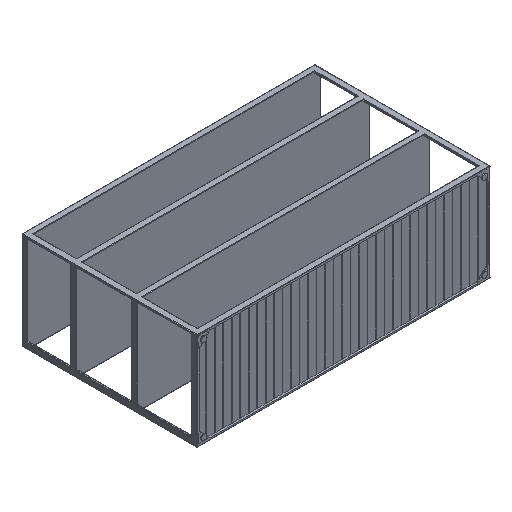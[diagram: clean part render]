
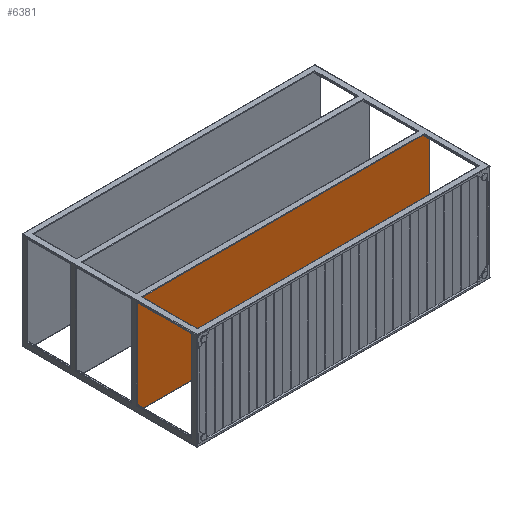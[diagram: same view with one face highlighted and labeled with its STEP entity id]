
A CAD part, isometric view. The second image highlights one B-rep face of the part: STEP entity #6381.
In plain terms, the highlighted planar face has unit normal (0, -1, 0).
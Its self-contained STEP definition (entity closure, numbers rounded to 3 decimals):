
#283=PLANE('',#7004);
#682=FACE_OUTER_BOUND('',#1098,.T.);
#1098=EDGE_LOOP('',(#5219,#5220,#5221,#5222,#5223,#5224,#5225,#5226,#5227,
#5228,#5229,#5230,#5231,#5232,#5233,#5234));
#1325=LINE('',#9107,#2073);
#1328=LINE('',#9114,#2076);
#1337=LINE('',#9139,#2085);
#1343=LINE('',#9158,#2091);
#1563=LINE('',#9760,#2311);
#1565=LINE('',#9765,#2313);
#1573=LINE('',#9777,#2321);
#1577=LINE('',#9790,#2325);
#1601=LINE('',#9871,#2349);
#1610=LINE('',#9910,#2358);
#1635=LINE('',#9975,#2383);
#1644=LINE('',#10008,#2392);
#2073=VECTOR('',#7263,10.);
#2076=VECTOR('',#7270,10.);
#2085=VECTOR('',#7293,10.);
#2091=VECTOR('',#7311,10.);
#2311=VECTOR('',#7873,10.);
#2313=VECTOR('',#7881,10.);
#2321=VECTOR('',#7889,10.);
#2325=VECTOR('',#7907,10.);
#2349=VECTOR('',#8023,10.);
#2358=VECTOR('',#8084,10.);
#2383=VECTOR('',#8169,10.);
#2392=VECTOR('',#8218,10.);
#2806=CIRCLE('',#6683,2.);
#2807=CIRCLE('',#6685,2.);
#2809=CIRCLE('',#6693,2.);
#2811=CIRCLE('',#6700,2.);
#2882=VERTEX_POINT('',#9091);
#2883=VERTEX_POINT('',#9093);
#2884=VERTEX_POINT('',#9097);
#2885=VERTEX_POINT('',#9099);
#2887=VERTEX_POINT('',#9105);
#2889=VERTEX_POINT('',#9113);
#2894=VERTEX_POINT('',#9126);
#2895=VERTEX_POINT('',#9128);
#2898=VERTEX_POINT('',#9138);
#2903=VERTEX_POINT('',#9151);
#2904=VERTEX_POINT('',#9153);
#2905=VERTEX_POINT('',#9157);
#3115=VERTEX_POINT('',#9755);
#3116=VERTEX_POINT('',#9759);
#3120=VERTEX_POINT('',#9775);
#3122=VERTEX_POINT('',#9786);
#3440=EDGE_CURVE('',#2882,#2883,#2806,.F.);
#3443=EDGE_CURVE('',#2884,#2885,#2807,.F.);
#3447=EDGE_CURVE('',#2887,#2882,#1325,.T.);
#3450=EDGE_CURVE('',#2885,#2889,#1328,.T.);
#3457=EDGE_CURVE('',#2894,#2895,#2809,.F.);
#3462=EDGE_CURVE('',#2895,#2898,#1337,.T.);
#3469=EDGE_CURVE('',#2903,#2904,#2811,.F.);
#3471=EDGE_CURVE('',#2904,#2905,#1343,.T.);
#3770=EDGE_CURVE('',#3116,#3115,#1563,.T.);
#3773=EDGE_CURVE('',#2883,#3116,#1565,.T.);
#3781=EDGE_CURVE('',#3120,#2884,#1573,.T.);
#3788=EDGE_CURVE('',#2905,#3122,#1577,.T.);
#3832=EDGE_CURVE('',#2898,#3120,#1601,.T.);
#3853=EDGE_CURVE('',#2889,#2887,#1610,.T.);
#3885=EDGE_CURVE('',#3122,#2894,#1635,.T.);
#3900=EDGE_CURVE('',#3115,#2903,#1644,.T.);
#5219=ORIENTED_EDGE('',*,*,#3770,.F.);
#5220=ORIENTED_EDGE('',*,*,#3773,.F.);
#5221=ORIENTED_EDGE('',*,*,#3440,.F.);
#5222=ORIENTED_EDGE('',*,*,#3447,.F.);
#5223=ORIENTED_EDGE('',*,*,#3853,.F.);
#5224=ORIENTED_EDGE('',*,*,#3450,.F.);
#5225=ORIENTED_EDGE('',*,*,#3443,.F.);
#5226=ORIENTED_EDGE('',*,*,#3781,.F.);
#5227=ORIENTED_EDGE('',*,*,#3832,.F.);
#5228=ORIENTED_EDGE('',*,*,#3462,.F.);
#5229=ORIENTED_EDGE('',*,*,#3457,.F.);
#5230=ORIENTED_EDGE('',*,*,#3885,.F.);
#5231=ORIENTED_EDGE('',*,*,#3788,.F.);
#5232=ORIENTED_EDGE('',*,*,#3471,.F.);
#5233=ORIENTED_EDGE('',*,*,#3469,.F.);
#5234=ORIENTED_EDGE('',*,*,#3900,.F.);
#6381=ADVANCED_FACE('',(#682),#283,.T.);
#6683=AXIS2_PLACEMENT_3D('',#9094,#7250,#7251);
#6685=AXIS2_PLACEMENT_3D('',#9100,#7256,#7257);
#6693=AXIS2_PLACEMENT_3D('',#9129,#7283,#7284);
#6700=AXIS2_PLACEMENT_3D('',#9154,#7306,#7307);
#7004=AXIS2_PLACEMENT_3D('',#10007,#8216,#8217);
#7250=DIRECTION('center_axis',(0.,1.,0.));
#7251=DIRECTION('ref_axis',(-0.707,0.,-0.707));
#7256=DIRECTION('center_axis',(0.,1.,0.));
#7257=DIRECTION('ref_axis',(0.707,0.,-0.707));
#7263=DIRECTION('',(0.,0.,-1.));
#7270=DIRECTION('',(0.,0.,1.));
#7283=DIRECTION('center_axis',(0.,1.,0.));
#7284=DIRECTION('ref_axis',(0.707,0.,0.707));
#7293=DIRECTION('',(-1.,0.,0.));
#7306=DIRECTION('center_axis',(0.,1.,0.));
#7307=DIRECTION('ref_axis',(-0.707,0.,0.707));
#7311=DIRECTION('',(0.,0.,-1.));
#7873=DIRECTION('',(0.,0.,-1.));
#7881=DIRECTION('',(1.,0.,0.));
#7889=DIRECTION('',(1.,0.,0.));
#7907=DIRECTION('',(-1.,0.,0.));
#8023=DIRECTION('',(0.,0.,1.));
#8084=DIRECTION('',(1.,0.,0.));
#8169=DIRECTION('',(0.,0.,1.));
#8216=DIRECTION('center_axis',(0.,-1.,0.));
#8217=DIRECTION('ref_axis',(0.,0.,-1.));
#8218=DIRECTION('',(-1.,0.,0.));
#9091=CARTESIAN_POINT('',(722.5,310.,242.));
#9093=CARTESIAN_POINT('',(724.5,310.,240.));
#9094=CARTESIAN_POINT('Origin',(724.5,310.,242.));
#9097=CARTESIAN_POINT('',(-724.5,310.,240.));
#9099=CARTESIAN_POINT('',(-722.5,310.,242.));
#9100=CARTESIAN_POINT('Origin',(-724.5,310.,242.));
#9105=CARTESIAN_POINT('',(722.5,310.,248.));
#9107=CARTESIAN_POINT('',(722.5,310.,120.));
#9113=CARTESIAN_POINT('',(-722.5,310.,248.));
#9114=CARTESIAN_POINT('',(-722.5,310.,125.));
#9126=CARTESIAN_POINT('',(-742.5,310.,-222.));
#9128=CARTESIAN_POINT('',(-744.5,310.,-220.));
#9129=CARTESIAN_POINT('Origin',(-744.5,310.,-222.));
#9138=CARTESIAN_POINT('',(-750.5,310.,-220.));
#9139=CARTESIAN_POINT('',(-376.25,310.,-220.));
#9151=CARTESIAN_POINT('',(744.5,310.,-220.));
#9153=CARTESIAN_POINT('',(742.5,310.,-222.));
#9154=CARTESIAN_POINT('Origin',(744.5,310.,-222.));
#9157=CARTESIAN_POINT('',(742.5,310.,-248.));
#9158=CARTESIAN_POINT('',(742.5,310.,120.));
#9755=CARTESIAN_POINT('',(750.5,310.,-220.));
#9759=CARTESIAN_POINT('',(750.5,310.,240.));
#9760=CARTESIAN_POINT('',(750.5,310.,125.));
#9765=CARTESIAN_POINT('',(-371.25,310.,240.));
#9775=CARTESIAN_POINT('',(-750.5,310.,240.));
#9777=CARTESIAN_POINT('',(-371.25,310.,240.));
#9786=CARTESIAN_POINT('',(-742.5,310.,-248.));
#9790=CARTESIAN_POINT('',(376.25,310.,-248.));
#9871=CARTESIAN_POINT('',(-750.5,310.,-125.));
#9910=CARTESIAN_POINT('',(-376.25,310.,248.));
#9975=CARTESIAN_POINT('',(-742.5,310.,-120.));
#10007=CARTESIAN_POINT('Origin',(0.,310.,0.));
#10008=CARTESIAN_POINT('',(371.25,310.,-220.));
